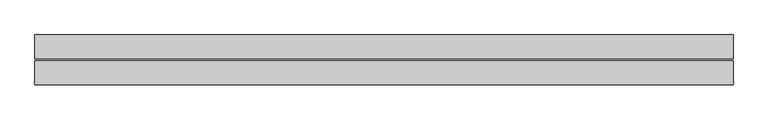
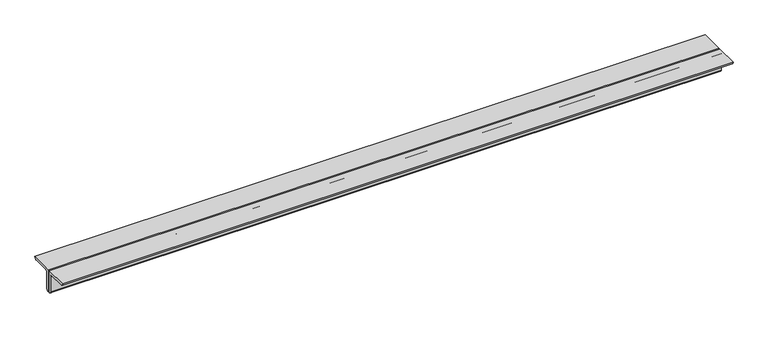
"""IFC4 building model written with IfcOpenShell, lengths in millimetres: beam geometry, Profilati doppi a L : DCED150x12."""

from ifc_helpers import new_model, si_unit, point, frame, frame_2d, origin, place, context, project, spatial, polyline, circle_curve, trimmed, segment, composite_curve, outline, extrude, source, transform, mapped, element, save


def beam_abf34582(model_context):
    return source(origin(), model_context, "Body", "SweptSolid", [
        extrude(outline(composite_curve([segment(polyline([(6.0, 42.4), (156.0, 42.4)]), True, "CONTINUOUS"), segment(trimmed(circle_curve(frame_2d((141.0, 42.4)), 15.0), [point((156.0, 42.4))], [point((141.0, 27.4))], False, "CARTESIAN"), True, "CONTINUOUS"), segment(polyline([(141.0, 27.4), (36.0, 27.4)]), True, "CONTINUOUS"), segment(trimmed(circle_curve(frame_2d((36.0, 12.4)), 15.0), [point((36.0, 27.4))], [point((21.0, 12.4))], True, "CARTESIAN"), True, "CONTINUOUS"), segment(polyline([(21.0, 12.4), (21.0, -92.6)]), True, "CONTINUOUS"), segment(trimmed(circle_curve(frame_2d((6.0, -92.6)), 15.0), [point((21.0, -92.6))], [point((6.0, -107.6))], False, "CARTESIAN"), True, "CONTINUOUS"), segment(polyline([(6.0, -107.6), (6.0, 42.4)]), True, "CONTINUOUS")], self_intersect=False)), frame((-2115.0, 0.0, 0.0), z_axis=(1.0, 0.0, 0.0), x_axis=(0.0, 1.0, 0.0)), (0.0, 0.0, 1.0), 4359.0),
        extrude(outline(composite_curve([segment(polyline([(-6.0, 42.4), (-6.0, -107.6)]), True, "CONTINUOUS"), segment(trimmed(circle_curve(frame_2d((-6.0, -92.6)), 15.0), [point((-6.0, -107.6))], [point((-21.0, -92.6))], False, "CARTESIAN"), True, "CONTINUOUS"), segment(polyline([(-21.0, -92.6), (-21.0, 12.4)]), True, "CONTINUOUS"), segment(trimmed(circle_curve(frame_2d((-36.0, 12.4)), 15.0), [point((-21.0, 12.4))], [point((-36.0, 27.4))], True, "CARTESIAN"), True, "CONTINUOUS"), segment(polyline([(-36.0, 27.4), (-141.0, 27.4)]), True, "CONTINUOUS"), segment(trimmed(circle_curve(frame_2d((-141.0, 42.4)), 15.0), [point((-141.0, 27.4))], [point((-156.0, 42.4))], False, "CARTESIAN"), True, "CONTINUOUS"), segment(polyline([(-156.0, 42.4), (-6.0, 42.4)]), True, "CONTINUOUS")], self_intersect=False)), frame((-2115.0, 0.0, 0.0), z_axis=(1.0, 0.0, 0.0), x_axis=(0.0, 1.0, 0.0)), (0.0, 0.0, 1.0), 4359.0),
    ])


if __name__ == "__main__":
    model = new_model("IFC4")
    model_context = context("Model", 3, world=origin())
    ifc_project = project(units=[si_unit("LENGTHUNIT", "METRE", prefix="MILLI")], contexts=[model_context])
    site = spatial("IfcSite", under=ifc_project)
    building = spatial("IfcBuilding", under=site)
    placement = place(None, origin())
    beam_shape = beam_abf34582(model_context)
    element("IfcBeam", 1, ObjectType="Profilati doppi a L : DCED150x12", at=placement, inside=building, context=model_context, shape_type="MappedRepresentation", body=[
        mapped(beam_shape, transform((0.0, 0.0, 0.0), x_axis=(1.0, 0.0, 0.0), y_axis=(0.0, 1.0, 0.0), z_axis=(0.0, 0.0, 1.0))),
    ])
    save(model, "model.ifc")
